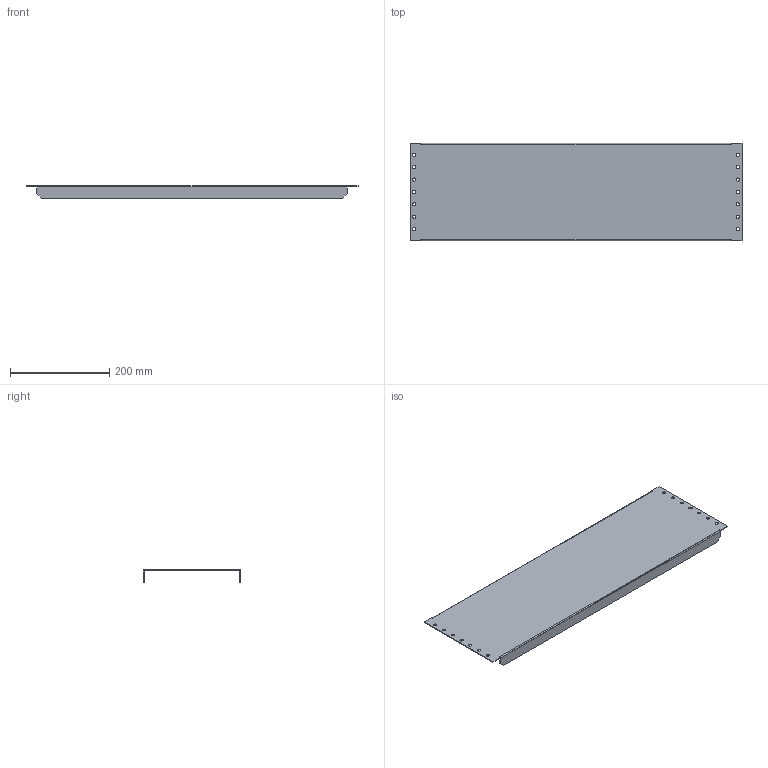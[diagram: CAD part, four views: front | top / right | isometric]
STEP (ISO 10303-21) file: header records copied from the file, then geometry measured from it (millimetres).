
FILE_DESCRIPTION (( 'STEP AP214' ), '1' );
FILE_NAME ('MSMPN2008.STEP', '2016-08-11T12:53:27', ( '' ), ( '' ), 'SwSTEP 2.0', 'SolidWorks 2014', '' );
FILE_SCHEMA (( 'AUTOMOTIVE_DESIGN' ));
Length unit declared in the file: millimetre
Products named in the file (1): MSMPN2008
Bounding box: 670 x 196 x 25 mm (x, y, z)
Volume: 239019.5 mm3; surface area: 321860.2 mm2
Topology: 1 solids, 1 shells, 56 faces, 160 edges, 106 vertices
Faces by surface type: plane 38, cylinder 18
Full cylindrical faces by diameter (mm): 6.5 x14
Entity records: 1718 total; most frequent: DIRECTION 282, CARTESIAN_POINT 281, ORIENTED_EDGE 264, EDGE_CURVE 132, EDGE_LOOP 98, LINE 96, VECTOR 96, AXIS2_PLACEMENT_3D 93
